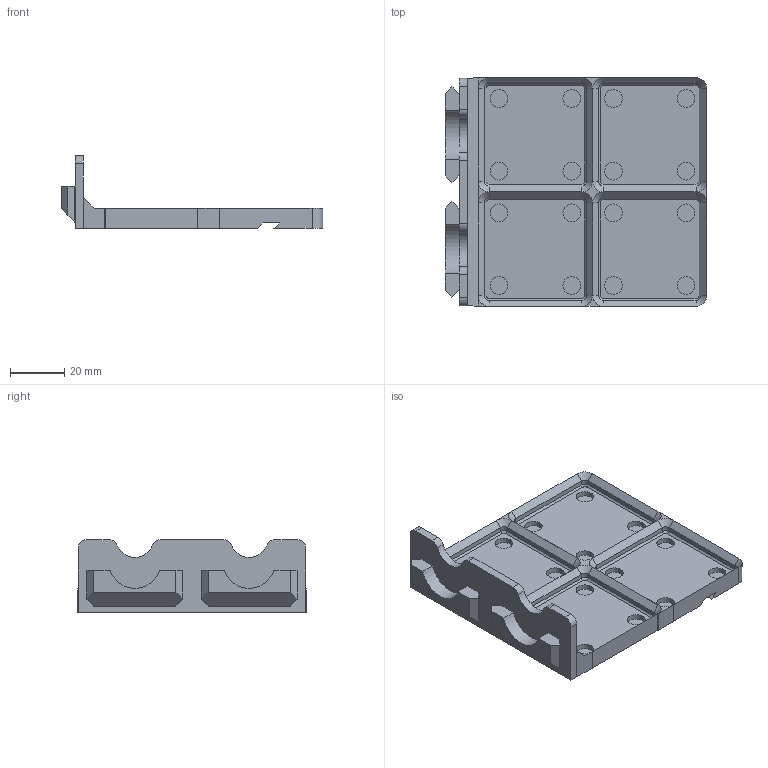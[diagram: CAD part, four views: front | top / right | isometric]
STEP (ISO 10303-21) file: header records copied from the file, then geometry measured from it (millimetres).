
FILE_DESCRIPTION(/* description */ ('','CAx-IF Rec.Pracs.---Representation and Presentation of Product Manufacturing Information (PMI)---4.0---2014-10-13'),/* implementation_level */ '2;1');
FILE_NAME(/* name */ 'Goews Double Hanger Gridfinity with Magnets 2x2 Base.step',/* time_stamp */ '2024-12-14T22:27:04-05:00',/* author */ (''),/* organization */ (''),/* preprocessor_version */ 'ST-DEVELOPER v20',/* originating_system */ 'Autodesk Translation Framework v13.20.0.188',/* authorisation */ '');
FILE_SCHEMA (('AP242_MANAGED_MODEL_BASED_3D_ENGINEERING_MIM_LF { 1 0 10303 442 1 1 4 }'));
Length unit declared in the file: millimetre
Products named in the file (1): Goews Double Hanger Gridfinity  with Magnets 2x2 Base
Bounding box: 96.15 x 84 x 26.72 mm (x, y, z)
Volume: 34560.1 mm3; surface area: 24485.8 mm2
Topology: 1 solids, 1 shells, 209 faces, 453 edges, 264 vertices
Faces by surface type: plane 119, cylinder 58, cone 32
Full cylindrical faces by diameter (mm): 6.5 x16
Entity records: 5584 total; most frequent: DIRECTION 1009, CARTESIAN_POINT 927, ORIENTED_EDGE 906, EDGE_CURVE 453, AXIS2_PLACEMENT_3D 346, LINE 317, VECTOR 317, VERTEX_POINT 264
